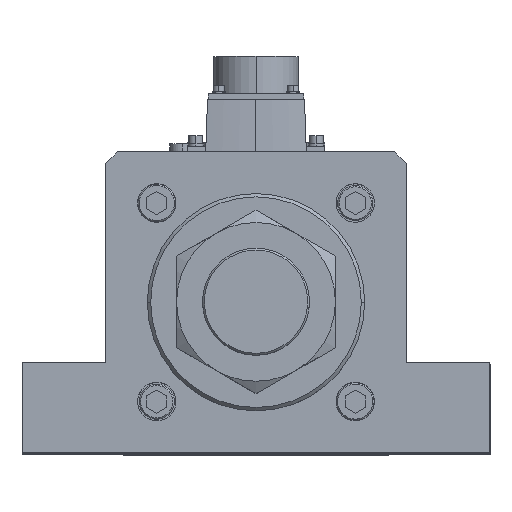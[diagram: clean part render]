
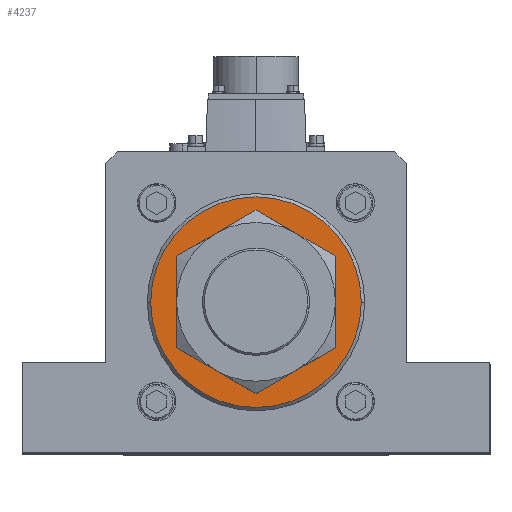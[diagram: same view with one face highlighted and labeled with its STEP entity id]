
A CAD part, top view. The second image highlights one B-rep face of the part: STEP entity #4237.
In plain terms, the highlighted planar face has unit normal (0, 0, 1).
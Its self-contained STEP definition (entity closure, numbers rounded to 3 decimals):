
#1643 = DIRECTION ( 'NONE',  ( 1., 0., 0. ) ) ;
#2526 = AXIS2_PLACEMENT_3D ( 'NONE', #33525, #47193, #47950 ) ;
#2836 = DIRECTION ( 'NONE',  ( 1., 0., 0. ) ) ;
#3209 = CARTESIAN_POINT ( 'NONE',  ( 0., 0., 562. ) ) ;
#3924 = EDGE_CURVE ( 'NONE', #22313, #22367, #9722, .T. ) ;
#4237 = ADVANCED_FACE ( 'NONE', ( #28042, #12390 ), #9158, .T. ) ;
#5535 = VERTEX_POINT ( 'NONE', #27644 ) ;
#5970 = AXIS2_PLACEMENT_3D ( 'NONE', #23309, #15124, #1643 ) ;
#6685 = EDGE_CURVE ( 'NONE', #22367, #22313, #48888, .T. ) ;
#9158 = PLANE ( 'NONE',  #14726 ) ;
#9705 = DIRECTION ( 'NONE',  ( 0., 0., 1. ) ) ;
#9722 = CIRCLE ( 'NONE', #5970, 63. ) ;
#9977 = EDGE_LOOP ( 'NONE', ( #25879, #42278 ) ) ;
#12390 = FACE_OUTER_BOUND ( 'NONE', #32464, .T. ) ;
#14726 = AXIS2_PLACEMENT_3D ( 'NONE', #44681, #9705, #27016 ) ;
#15124 = DIRECTION ( 'NONE',  ( 0., 0., 1. ) ) ;
#15587 = CARTESIAN_POINT ( 'NONE',  ( 63., 0., 562. ) ) ;
#18614 = ORIENTED_EDGE ( 'NONE', *, *, #6685, .T. ) ;
#19002 = EDGE_CURVE ( 'NONE', #5535, #44214, #54166, .T. ) ;
#19459 = CARTESIAN_POINT ( 'NONE',  ( 0., 0., 562. ) ) ;
#19645 = DIRECTION ( 'NONE',  ( 0., 0., -1. ) ) ;
#20193 = DIRECTION ( 'NONE',  ( 1., 0., 0. ) ) ;
#22313 = VERTEX_POINT ( 'NONE', #15587 ) ;
#22367 = VERTEX_POINT ( 'NONE', #32687 ) ;
#23309 = CARTESIAN_POINT ( 'NONE',  ( 0., 0., 562. ) ) ;
#23825 = AXIS2_PLACEMENT_3D ( 'NONE', #19459, #19645, #20193 ) ;
#24680 = CIRCLE ( 'NONE', #45241, 40.5 ) ;
#25879 = ORIENTED_EDGE ( 'NONE', *, *, #53757, .T. ) ;
#27016 = DIRECTION ( 'NONE',  ( 1., 0., 0. ) ) ;
#27644 = CARTESIAN_POINT ( 'NONE',  ( -40.5, 0., 562. ) ) ;
#28042 = FACE_BOUND ( 'NONE', #9977, .T. ) ;
#32464 = EDGE_LOOP ( 'NONE', ( #18614, #41130 ) ) ;
#32687 = CARTESIAN_POINT ( 'NONE',  ( -63., 0., 562. ) ) ;
#32726 = CARTESIAN_POINT ( 'NONE',  ( 40.5, 0., 562. ) ) ;
#33525 = CARTESIAN_POINT ( 'NONE',  ( 0., 0., 562. ) ) ;
#41130 = ORIENTED_EDGE ( 'NONE', *, *, #3924, .T. ) ;
#42141 = DIRECTION ( 'NONE',  ( 0., 0., -1. ) ) ;
#42278 = ORIENTED_EDGE ( 'NONE', *, *, #19002, .T. ) ;
#44214 = VERTEX_POINT ( 'NONE', #32726 ) ;
#44681 = CARTESIAN_POINT ( 'NONE',  ( 0., 0., 562. ) ) ;
#45241 = AXIS2_PLACEMENT_3D ( 'NONE', #3209, #42141, #2836 ) ;
#47193 = DIRECTION ( 'NONE',  ( 0., 0., 1. ) ) ;
#47950 = DIRECTION ( 'NONE',  ( 1., 0., 0. ) ) ;
#48888 = CIRCLE ( 'NONE', #2526, 63. ) ;
#53757 = EDGE_CURVE ( 'NONE', #44214, #5535, #24680, .T. ) ;
#54166 = CIRCLE ( 'NONE', #23825, 40.5 ) ;
